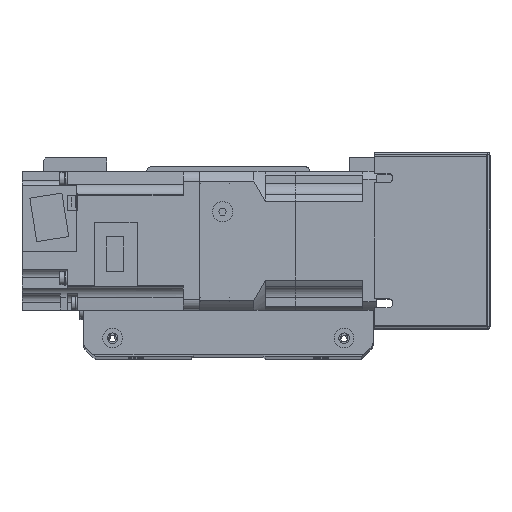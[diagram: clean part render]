
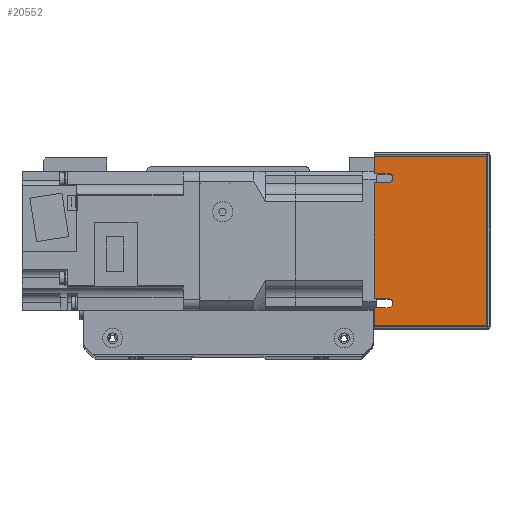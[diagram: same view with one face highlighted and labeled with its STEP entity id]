
A CAD part, top view. The second image highlights one B-rep face of the part: STEP entity #20552.
In plain terms, the highlighted planar face has unit normal (0, 0, 1) as drawn and (-1, 0, 0) by its records, which use the part's own axes.
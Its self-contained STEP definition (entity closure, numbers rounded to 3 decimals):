
#665=PLANE('',#22717);
#1995=LINE('',#34349,#3619);
#2002=LINE('',#34365,#3626);
#2011=LINE('',#34385,#3635);
#2019=LINE('',#34403,#3643);
#2034=LINE('',#34446,#3658);
#2036=LINE('',#34453,#3660);
#2039=LINE('',#34462,#3663);
#2044=LINE('',#34476,#3668);
#2045=LINE('',#34478,#3669);
#2046=LINE('',#34479,#3670);
#3619=VECTOR('',#27948,10.);
#3626=VECTOR('',#27959,10.);
#3635=VECTOR('',#27972,10.);
#3643=VECTOR('',#27984,10.);
#3658=VECTOR('',#28029,10.);
#3660=VECTOR('',#28037,10.);
#3663=VECTOR('',#28046,10.);
#3668=VECTOR('',#28059,10.);
#3669=VECTOR('',#28060,10.);
#3670=VECTOR('',#28061,10.);
#5962=FACE_OUTER_BOUND('',#7542,.T.);
#7542=EDGE_LOOP('',(#17858,#17859,#17860,#17861,#17862,#17863,#17864,#17865,
#17866,#17867,#17868,#17869));
#8668=CIRCLE('',#22696,2.);
#8673=CIRCLE('',#22704,2.);
#10341=VERTEX_POINT('',#34346);
#10342=VERTEX_POINT('',#34348);
#10348=VERTEX_POINT('',#34362);
#10349=VERTEX_POINT('',#34364);
#10357=VERTEX_POINT('',#34382);
#10358=VERTEX_POINT('',#34384);
#10365=VERTEX_POINT('',#34400);
#10366=VERTEX_POINT('',#34402);
#10379=VERTEX_POINT('',#34445);
#10384=VERTEX_POINT('',#34460);
#10389=VERTEX_POINT('',#34475);
#10390=VERTEX_POINT('',#34477);
#12877=EDGE_CURVE('',#10341,#10342,#1995,.T.);
#12884=EDGE_CURVE('',#10348,#10349,#2002,.T.);
#12893=EDGE_CURVE('',#10357,#10358,#2011,.T.);
#12901=EDGE_CURVE('',#10365,#10366,#2019,.T.);
#12908=EDGE_CURVE('',#10349,#10341,#8668,.T.);
#12919=EDGE_CURVE('',#10366,#10357,#8673,.T.);
#12925=EDGE_CURVE('',#10379,#10358,#2034,.T.);
#12929=EDGE_CURVE('',#10365,#10342,#2036,.T.);
#12934=EDGE_CURVE('',#10348,#10384,#2039,.T.);
#12941=EDGE_CURVE('',#10384,#10389,#2044,.T.);
#12942=EDGE_CURVE('',#10389,#10390,#2045,.T.);
#12943=EDGE_CURVE('',#10390,#10379,#2046,.T.);
#17858=ORIENTED_EDGE('',*,*,#12877,.F.);
#17859=ORIENTED_EDGE('',*,*,#12908,.F.);
#17860=ORIENTED_EDGE('',*,*,#12884,.F.);
#17861=ORIENTED_EDGE('',*,*,#12934,.T.);
#17862=ORIENTED_EDGE('',*,*,#12941,.T.);
#17863=ORIENTED_EDGE('',*,*,#12942,.T.);
#17864=ORIENTED_EDGE('',*,*,#12943,.T.);
#17865=ORIENTED_EDGE('',*,*,#12925,.T.);
#17866=ORIENTED_EDGE('',*,*,#12893,.F.);
#17867=ORIENTED_EDGE('',*,*,#12919,.F.);
#17868=ORIENTED_EDGE('',*,*,#12901,.F.);
#17869=ORIENTED_EDGE('',*,*,#12929,.T.);
#20552=ADVANCED_FACE('',(#5962),#665,.F.);
#22696=AXIS2_PLACEMENT_3D('',#34416,#27996,#27997);
#22704=AXIS2_PLACEMENT_3D('',#34434,#28018,#28019);
#22717=AXIS2_PLACEMENT_3D('',#34474,#28057,#28058);
#27948=DIRECTION('',(0.,0.,-1.));
#27959=DIRECTION('',(0.,0.,1.));
#27972=DIRECTION('',(0.,0.,-1.));
#27984=DIRECTION('',(0.,0.,1.));
#27996=DIRECTION('center_axis',(-1.,0.,0.));
#27997=DIRECTION('ref_axis',(0.,0.,-1.));
#28018=DIRECTION('center_axis',(-1.,0.,0.));
#28019=DIRECTION('ref_axis',(0.,0.,-1.));
#28029=DIRECTION('',(0.,-1.,0.));
#28037=DIRECTION('',(0.,-1.,0.));
#28046=DIRECTION('',(0.,-1.,0.));
#28057=DIRECTION('center_axis',(1.,0.,0.));
#28058=DIRECTION('ref_axis',(0.,-1.,0.));
#28059=DIRECTION('',(0.,0.,1.));
#28060=DIRECTION('',(0.,1.,0.));
#28061=DIRECTION('',(0.,0.,-1.));
#34346=CARTESIAN_POINT('',(-91.,-25.,-19.));
#34348=CARTESIAN_POINT('',(-91.,-25.,-25.));
#34349=CARTESIAN_POINT('',(-91.,-25.,-9.5));
#34362=CARTESIAN_POINT('',(-91.,-29.,-25.));
#34364=CARTESIAN_POINT('',(-91.,-29.,-19.));
#34365=CARTESIAN_POINT('',(-91.,-29.,-15.178));
#34382=CARTESIAN_POINT('',(-91.,29.,-19.));
#34384=CARTESIAN_POINT('',(-91.,29.,-25.));
#34385=CARTESIAN_POINT('',(-91.,29.,-9.5));
#34400=CARTESIAN_POINT('',(-91.,25.,-25.));
#34402=CARTESIAN_POINT('',(-91.,25.,-19.));
#34403=CARTESIAN_POINT('',(-91.,25.,-15.178));
#34416=CARTESIAN_POINT('Origin',(-91.,-27.,-19.));
#34434=CARTESIAN_POINT('Origin',(-91.,27.,-19.));
#34445=CARTESIAN_POINT('',(-91.,37.,-25.));
#34446=CARTESIAN_POINT('',(-91.,-38.,-25.));
#34453=CARTESIAN_POINT('',(-91.,-38.,-25.));
#34460=CARTESIAN_POINT('',(-91.,-37.,-25.));
#34462=CARTESIAN_POINT('',(-91.,-38.,-25.));
#34474=CARTESIAN_POINT('Origin',(-91.,38.,0.));
#34475=CARTESIAN_POINT('',(-91.,-37.,24.));
#34476=CARTESIAN_POINT('',(-91.,-37.,0.));
#34477=CARTESIAN_POINT('',(-91.,37.,24.));
#34478=CARTESIAN_POINT('',(-91.,19.,24.));
#34479=CARTESIAN_POINT('',(-91.,37.,0.));
